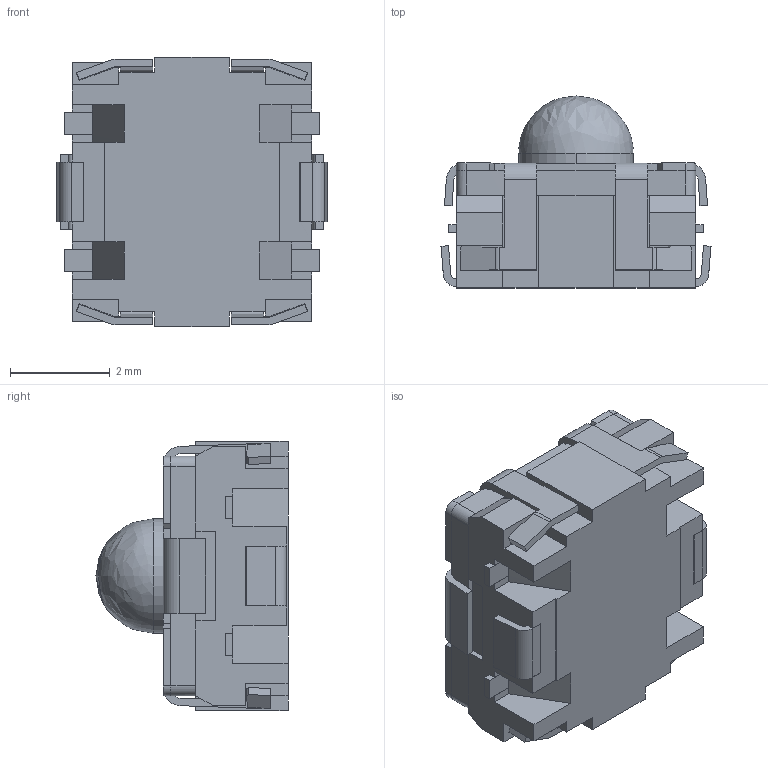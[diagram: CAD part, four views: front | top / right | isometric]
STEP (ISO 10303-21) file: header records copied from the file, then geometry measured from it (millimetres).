
FILE_DESCRIPTION (( 'STEP AP214' ), '1' );
FILE_NAME ('SKSUAAE010.STEP', '2015-03-26T06:48:03', ( 'user' ), ( 'Hewlett-Packard Company' ), 'SwSTEP 2.0', 'SolidWorks 2014', '' );
FILE_SCHEMA (( 'AUTOMOTIVE_DESIGN' ));
Length unit declared in the file: millimetre
Products named in the file (1): SKSUAAE010
Bounding box: 5.42 x 3.85 x 5.4 mm (x, y, z)
Volume: 61.6 mm3; surface area: 142.4 mm2
Topology: 1 solids, 1 shells, 257 faces, 705 edges, 450 vertices
Faces by surface type: plane 219, cylinder 37, bspline 1
Entity records: 10890 total; most frequent: CARTESIAN_POINT 1552, ORIENTED_EDGE 1406, DIRECTION 1248, EDGE_CURVE 703, LINE 616, VECTOR 616, VERTEX_POINT 450, AXIS2_PLACEMENT_3D 316
